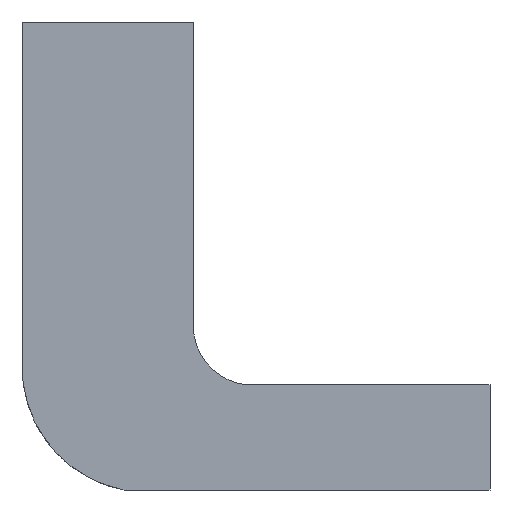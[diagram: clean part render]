
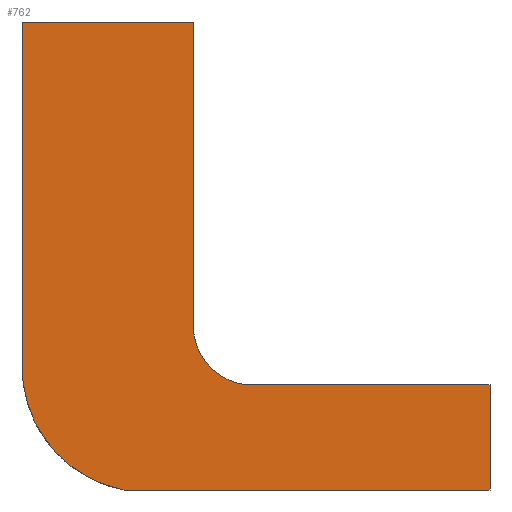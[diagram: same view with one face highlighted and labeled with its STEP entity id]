
A CAD part, front view. The second image highlights one B-rep face of the part: STEP entity #762.
In plain terms, the highlighted planar face has unit normal (0, -1, 0).
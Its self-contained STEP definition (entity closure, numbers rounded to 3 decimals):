
#41=PLANE('',#861);
#97=LINE('',#1292,#169);
#99=LINE('',#1297,#171);
#104=LINE('',#1311,#176);
#109=LINE('',#1320,#181);
#111=LINE('',#1327,#183);
#113=LINE('',#1330,#185);
#169=VECTOR('',#1043,10.);
#171=VECTOR('',#1047,10.);
#176=VECTOR('',#1060,10.);
#181=VECTOR('',#1071,10.);
#183=VECTOR('',#1079,10.);
#185=VECTOR('',#1083,10.);
#244=FACE_OUTER_BOUND('',#290,.T.);
#290=EDGE_LOOP('',(#709,#710,#711,#712,#713,#714,#715,#716));
#321=CIRCLE('',#850,30.918);
#324=CIRCLE('',#857,65.777);
#381=VERTEX_POINT('',#1289);
#382=VERTEX_POINT('',#1291);
#383=VERTEX_POINT('',#1295);
#384=VERTEX_POINT('',#1296);
#387=VERTEX_POINT('',#1304);
#389=VERTEX_POINT('',#1310);
#391=VERTEX_POINT('',#1322);
#392=VERTEX_POINT('',#1326);
#480=EDGE_CURVE('',#381,#382,#97,.T.);
#482=EDGE_CURVE('',#383,#384,#99,.T.);
#486=EDGE_CURVE('',#387,#383,#321,.T.);
#489=EDGE_CURVE('',#389,#387,#104,.T.);
#495=EDGE_CURVE('',#382,#389,#109,.T.);
#497=EDGE_CURVE('',#391,#381,#324,.T.);
#498=EDGE_CURVE('',#392,#391,#111,.T.);
#500=EDGE_CURVE('',#384,#392,#113,.T.);
#709=ORIENTED_EDGE('',*,*,#500,.F.);
#710=ORIENTED_EDGE('',*,*,#482,.F.);
#711=ORIENTED_EDGE('',*,*,#486,.F.);
#712=ORIENTED_EDGE('',*,*,#489,.F.);
#713=ORIENTED_EDGE('',*,*,#495,.F.);
#714=ORIENTED_EDGE('',*,*,#480,.F.);
#715=ORIENTED_EDGE('',*,*,#497,.F.);
#716=ORIENTED_EDGE('',*,*,#498,.F.);
#762=ADVANCED_FACE('',(#244),#41,.F.);
#850=AXIS2_PLACEMENT_3D('',#1305,#1053,#1054);
#857=AXIS2_PLACEMENT_3D('',#1324,#1075,#1076);
#861=AXIS2_PLACEMENT_3D('',#1332,#1086,#1087);
#1043=DIRECTION('',(0.,0.,1.));
#1047=DIRECTION('',(1.,0.,0.));
#1053=DIRECTION('center_axis',(0.,-1.,0.));
#1054=DIRECTION('ref_axis',(0.06,0.,0.998));
#1060=DIRECTION('',(0.,0.,-1.));
#1071=DIRECTION('',(1.,0.,0.));
#1075=DIRECTION('center_axis',(0.,1.,0.));
#1076=DIRECTION('ref_axis',(-0.188,0.,-0.982));
#1079=DIRECTION('',(-1.,0.,0.));
#1083=DIRECTION('',(0.,0.,-1.));
#1086=DIRECTION('center_axis',(0.,1.,0.));
#1087=DIRECTION('ref_axis',(0.,0.,1.));
#1289=CARTESIAN_POINT('',(-122.5,0.,-56.665));
#1291=CARTESIAN_POINT('',(-122.5,0.,122.5));
#1292=CARTESIAN_POINT('',(-122.5,0.,-56.665));
#1295=CARTESIAN_POINT('',(-3.719,0.,-67.5));
#1296=CARTESIAN_POINT('',(122.5,0.,-67.5));
#1297=CARTESIAN_POINT('',(-3.719,0.,-67.5));
#1304=CARTESIAN_POINT('',(-32.5,0.,-40.775));
#1305=CARTESIAN_POINT('Origin',(-1.86,0.,-36.638));
#1310=CARTESIAN_POINT('',(-32.5,0.,122.5));
#1311=CARTESIAN_POINT('',(-32.5,0.,122.5));
#1320=CARTESIAN_POINT('',(-122.5,0.,122.5));
#1322=CARTESIAN_POINT('',(-69.1,0.,-122.5));
#1324=CARTESIAN_POINT('Origin',(-56.734,0.,-57.896));
#1326=CARTESIAN_POINT('',(122.5,0.,-122.5));
#1327=CARTESIAN_POINT('',(122.5,0.,-122.5));
#1330=CARTESIAN_POINT('',(122.5,0.,-67.5));
#1332=CARTESIAN_POINT('Origin',(-0.006,0.,0.));
